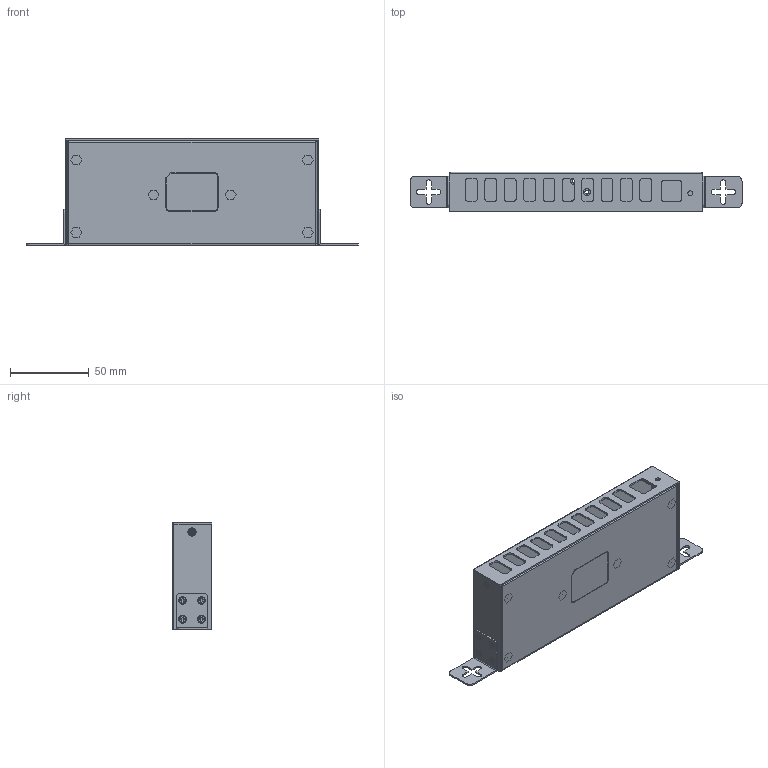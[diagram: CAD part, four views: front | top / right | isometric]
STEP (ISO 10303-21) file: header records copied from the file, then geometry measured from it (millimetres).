
FILE_DESCRIPTION(/* description */ (''),/* implementation_level */ '2;1');
FILE_NAME(/* name */ 'GM-HU310A_CAD.step',/* time_stamp */ '2024-10-17T15:52:21-04:00',/* author */ (''),/* organization */ (''),/* preprocessor_version */ 'ST-DEVELOPER v20',/* originating_system */ 'Autodesk Translation Framework v13.20.0.188',/* authorisation */ '');
FILE_SCHEMA (('AUTOMOTIVE_DESIGN { 1 0 10303 214 3 1 1 }'));
Length unit declared in the file: millimetre
Products named in the file (16): HT1-A10L_ASM_ASM; HT2-CA46L_ASM_59_ASM; HT2CA46L-TOP1-B_20; HT2CA46L-BOT-B_64_ASM; HT2CA46L-BOT-B_64_1; HT2CA46L-BOT-B_64_2; HT2CA46L-BOT-B_64_3; HT2CA46L-BOT-B_64_4; HT2CA46L-BOT-B_64_5; HT2CA46L-BOT-B_64_6; HT2CA46L-BOT-B_64_7; HT2CA46L-38-B_10; FM3X3_8CCRO-A_1_ASM; FM3X3_8CCRO-A_1_1; FM3X3_8CCRO-A_1_2; FM-3X3_8CCRO_1
Assembly tree (26 placements, depth 4):
  HT1-A10L_ASM_ASM
    HT2-CA46L_ASM_59_ASM
      HT2CA46L-TOP1-B_20
      HT2CA46L-BOT-B_64_ASM
        HT2CA46L-BOT-B_64_1
        HT2CA46L-BOT-B_64_2
        HT2CA46L-BOT-B_64_3
        HT2CA46L-BOT-B_64_4
        HT2CA46L-BOT-B_64_5
        HT2CA46L-BOT-B_64_6
        HT2CA46L-BOT-B_64_7
      HT2CA46L-38-B_10  x2
      FM3X3_8CCRO-A_1_ASM  x4
        FM3X3_8CCRO-A_1_1
        FM3X3_8CCRO-A_1_2
      FM-3X3_8CCRO_1  x8
Bounding box: 211 x 25.02 x 68 mm (x, y, z)
Volume: 35408.8 mm3; surface area: 73614.7 mm2
Topology: 26 solids, 26 shells, 829 faces, 2111 edges, 1336 vertices
Faces by surface type: plane 479, cylinder 195, bspline 114, cone 34, torus 7
Full cylindrical faces by diameter (mm): 2.5 x21, 2.6 x16, 3 x1, 3.5 x1, 4 x2, 4.2 x8, 4.5 x7, 6 x6, 6.8 x1
Entity records: 21372 total; most frequent: CARTESIAN_POINT 7790, DIRECTION 2725, ORIENTED_EDGE 2618, EDGE_CURVE 1309, AXIS2_PLACEMENT_3D 934, LINE 857, VECTOR 857, VERTEX_POINT 824
